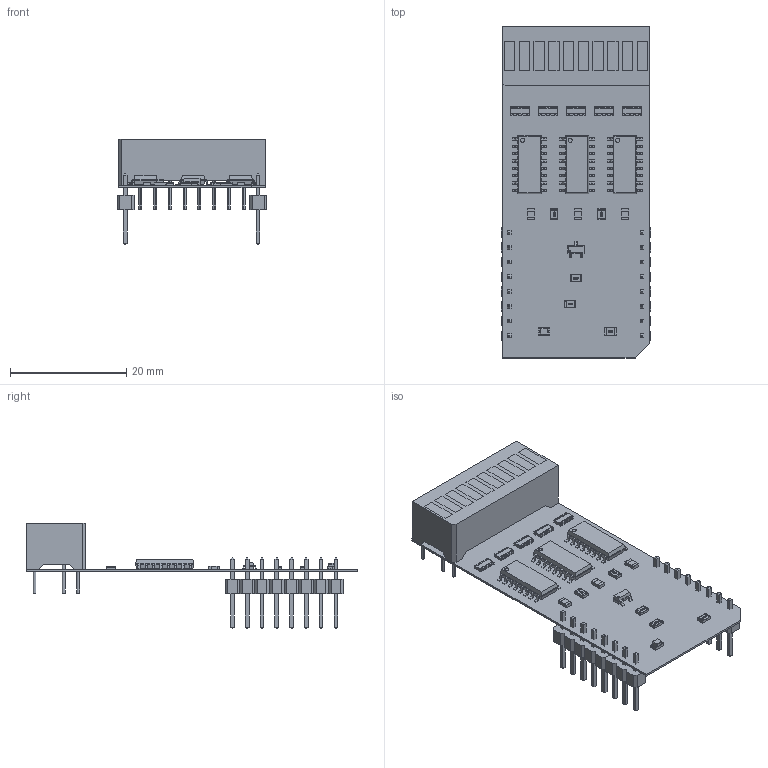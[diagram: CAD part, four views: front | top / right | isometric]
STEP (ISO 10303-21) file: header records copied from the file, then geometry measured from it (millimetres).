
FILE_DESCRIPTION(('Open CASCADE Model'),'2;1');
FILE_NAME('Open CASCADE Shape Model','2017-09-29T09:48:07',('Author'),( 'Open CASCADE'),'Open CASCADE STEP processor 6.8','Open CASCADE 6.8' ,'Unknown');
FILE_SCHEMA(('AUTOMOTIVE_DESIGN { 1 0 10303 214 1 1 1 1 }'));
Length unit declared in the file: millimetre
Products named in the file (41): PCB; Board; MBD1; 871472624; User_Library-PinHeaderX5-1_PinHeaderX5_Pins_1; User_Library-PinHeaderX5-1_PinHeaderX5_Body_1; 871472496; 871472368; User_Library-PinHeaderX3_PinHeader_Body_1; User_Library-PinHeaderX3_PinHeader_Pins_1; 871472112; R4; User_Library-R_0805; R3; JP1; C3; User_Library-SMD_CAPACITOR0805; C2; C1; Q1; SOT23-3; R2; U3; User_Library-SOIC-16-2; U2; U1; PWR; led_0805_green; R1; RA1; User_Library-TC164; RA2; RA3; RA4; RA5; LED_BAR_1; XGxxxxX10D
Assembly tree (52 placements, depth 4):
  PCB
    Board
    MBD1
      871472624
        User_Library-PinHeaderX5-1_PinHeaderX5_Pins_1
        User_Library-PinHeaderX5-1_PinHeaderX5_Body_1
      871472496
        User_Library-PinHeaderX5-1_PinHeaderX5_Pins_1
        User_Library-PinHeaderX5-1_PinHeaderX5_Body_1
      871472368
        User_Library-PinHeaderX3_PinHeader_Body_1
        User_Library-PinHeaderX3_PinHeader_Pins_1
      871472112
        User_Library-PinHeaderX3_PinHeader_Body_1
        User_Library-PinHeaderX3_PinHeader_Pins_1
    R4
      User_Library-R_0805
    R3
      User_Library-R_0805
    JP1
      User_Library-R_0805
    C3
      User_Library-SMD_CAPACITOR0805
    C2
      User_Library-SMD_CAPACITOR0805
    C1
      User_Library-SMD_CAPACITOR0805
    Q1
      SOT23-3
    R2
      User_Library-R_0805
    U3
      User_Library-SOIC-16-2
    U2
      User_Library-SOIC-16-2
    U1
      User_Library-SOIC-16-2
    PWR
      led_0805_green
    R1
      User_Library-R_0805
    RA1
      User_Library-TC164
    RA2
      User_Library-TC164
    RA3
      User_Library-TC164
    RA4
      User_Library-TC164
    RA5
      User_Library-TC164
    LED_BAR_1
      XGxxxxX10D
Bounding box: 25.79 x 57.15 x 18.11 mm (x, y, z)
Volume: 1090.2 mm3; surface area: 6472.7 mm2
Topology: 42 solids, 143 shells, 2574 faces, 6678 edges, 4344 vertices
Faces by surface type: plane 1965, cylinder 369, bspline 210, sphere 30
Entity records: 103814 total; most frequent: CARTESIAN_POINT 36717, DIRECTION 10709, LINE 7337, VECTOR 7337, ORIENTED_EDGE 5892, PCURVE 5892, DEFINITIONAL_REPRESENTATION 5892, EDGE_CURVE 3106
